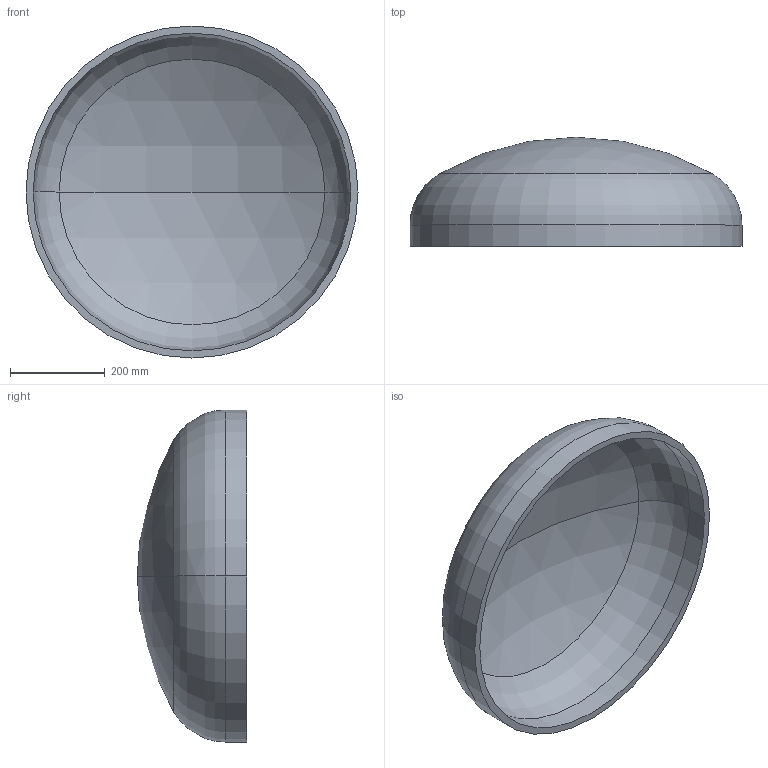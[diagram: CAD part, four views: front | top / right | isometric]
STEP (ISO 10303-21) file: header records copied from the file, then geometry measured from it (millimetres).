
FILE_DESCRIPTION (( 'STEP AP203' ), '1' );
FILE_NAME ('DIN 28013 Korbbogenform_-_Boden DIN 28013 - 700 x 45 - I - s=15.step', '2016-07-01T08:04:39', ( '' ), ( '' ), 'SwSTEP 2.0', 'SolidWorks 2013', '' );
FILE_SCHEMA (( 'CONFIG_CONTROL_DESIGN' ));
Length unit declared in the file: millimetre
Products named in the file (1): DIN 28013 Korbbogenform_-_Boden DIN 28013 - 700 x 45 - I - s=15
Bounding box: 700 x 230.29 x 700 mm (x, y, z)
Volume: 9257056.1 mm3; surface area: 1267024.9 mm2
Topology: 1 solids, 1 shells, 13 faces, 24 edges, 14 vertices
Faces by surface type: torus 4, cylinder 4, sphere 4, plane 1
Entity records: 407 total; most frequent: DIRECTION 72, CARTESIAN_POINT 52, ORIENTED_EDGE 48, AXIS2_PLACEMENT_3D 34, EDGE_CURVE 24, CIRCLE 20, VERTEX_POINT 14, EDGE_LOOP 14
